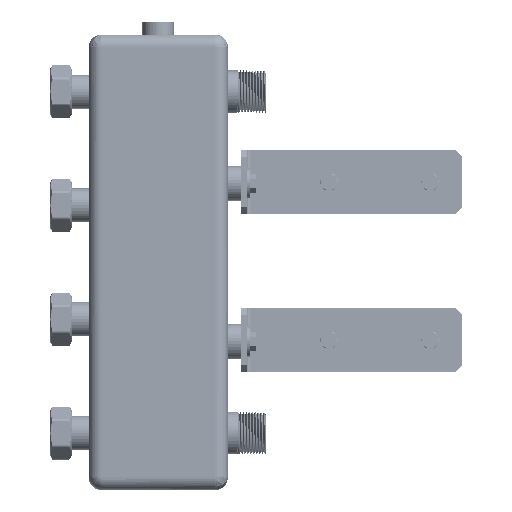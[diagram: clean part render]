
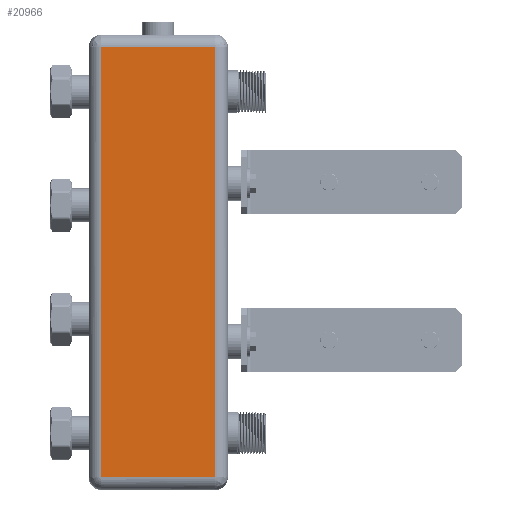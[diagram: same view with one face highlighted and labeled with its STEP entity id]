
A CAD part, left-side view. The second image highlights one B-rep face of the part: STEP entity #20966.
In plain terms, the highlighted planar face has unit normal (-1, 0, 0) as drawn and (1, 0, 0) by its records, which use the part's own axes.
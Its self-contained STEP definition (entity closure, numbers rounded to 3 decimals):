
#1501 = CARTESIAN_POINT ( 'NONE',  ( 55., 10., 10. ) ) ;
#2823 = CARTESIAN_POINT ( 'NONE',  ( 55., 10., 0. ) ) ;
#2878 = FACE_OUTER_BOUND ( 'NONE', #59251, .T. ) ;
#3512 = DIRECTION ( 'NONE',  ( 0., 0., -1. ) ) ;
#4662 = VECTOR ( 'NONE', #13388, 1000. ) ;
#13388 = DIRECTION ( 'NONE',  ( 0., 0., 1. ) ) ;
#13935 = VECTOR ( 'NONE', #43924, 1000. ) ;
#14963 = LINE ( 'NONE', #2823, #33425 ) ;
#20966 = ADVANCED_FACE ( 'NONE', ( #2878 ), #41678, .T. ) ;
#24026 = CARTESIAN_POINT ( 'NONE',  ( 55., 0., 0. ) ) ;
#24478 = CARTESIAN_POINT ( 'NONE',  ( 55., 100., 0. ) ) ;
#27963 = VERTEX_POINT ( 'NONE', #41866 ) ;
#29756 = DIRECTION ( 'NONE',  ( 0., 0., -1. ) ) ;
#30920 = LINE ( 'NONE', #24478, #4662 ) ;
#33425 = VECTOR ( 'NONE', #3512, 1000. ) ;
#35195 = DIRECTION ( 'NONE',  ( 1., 0., 0. ) ) ;
#35884 = VECTOR ( 'NONE', #48569, 1000. ) ;
#36748 = VERTEX_POINT ( 'NONE', #39864 ) ;
#39751 = VERTEX_POINT ( 'NONE', #54506 ) ;
#39864 = CARTESIAN_POINT ( 'NONE',  ( 55., 10., 350. ) ) ;
#41678 = PLANE ( 'NONE',  #48727 ) ;
#41866 = CARTESIAN_POINT ( 'NONE',  ( 55., 100., 350. ) ) ;
#42688 = ORIENTED_EDGE ( 'NONE', *, *, #51738, .T. ) ;
#43924 = DIRECTION ( 'NONE',  ( 0., 1., 0. ) ) ;
#48569 = DIRECTION ( 'NONE',  ( 0., -1., 0. ) ) ;
#48727 = AXIS2_PLACEMENT_3D ( 'NONE', #24026, #35195, #29756 ) ;
#49291 = LINE ( 'NONE', #65408, #35884 ) ;
#49717 = CARTESIAN_POINT ( 'NONE',  ( 55., 0., 10. ) ) ;
#50968 = EDGE_CURVE ( 'NONE', #39751, #27963, #30920, .T. ) ;
#51738 = EDGE_CURVE ( 'NONE', #36748, #59488, #14963, .T. ) ;
#52120 = EDGE_CURVE ( 'NONE', #59488, #39751, #65129, .T. ) ;
#54506 = CARTESIAN_POINT ( 'NONE',  ( 55., 100., 10. ) ) ;
#56289 = ORIENTED_EDGE ( 'NONE', *, *, #50968, .T. ) ;
#59251 = EDGE_LOOP ( 'NONE', ( #65628, #56289, #59665, #42688 ) ) ;
#59488 = VERTEX_POINT ( 'NONE', #1501 ) ;
#59665 = ORIENTED_EDGE ( 'NONE', *, *, #60381, .T. ) ;
#60381 = EDGE_CURVE ( 'NONE', #27963, #36748, #49291, .T. ) ;
#65129 = LINE ( 'NONE', #49717, #13935 ) ;
#65408 = CARTESIAN_POINT ( 'NONE',  ( 55., 0., 350. ) ) ;
#65628 = ORIENTED_EDGE ( 'NONE', *, *, #52120, .T. ) ;
